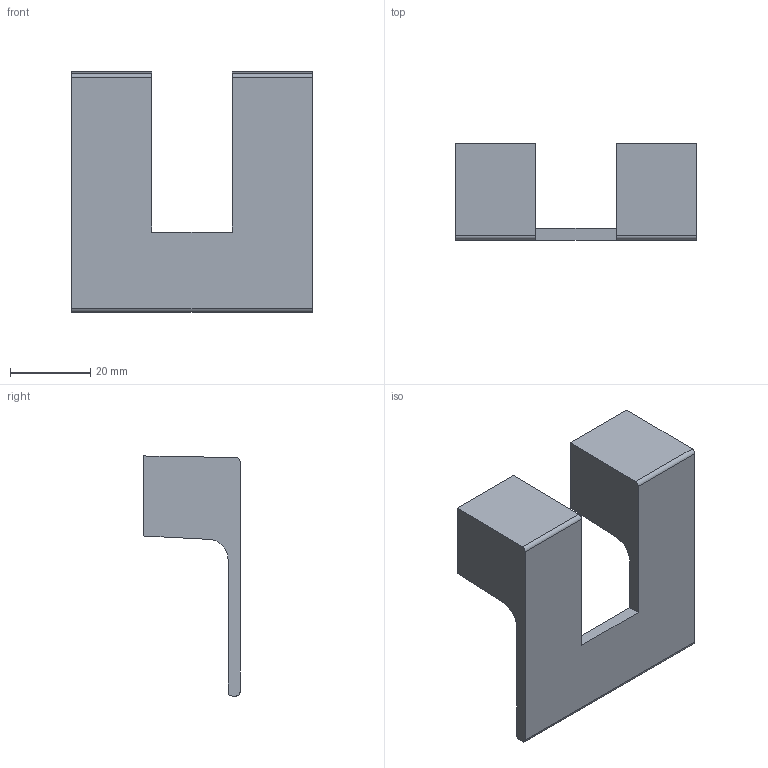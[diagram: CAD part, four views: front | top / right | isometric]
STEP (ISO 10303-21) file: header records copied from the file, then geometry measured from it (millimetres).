
FILE_DESCRIPTION( ( '' ), '1' );
FILE_NAME( 'C:/Documents and Settings/Nikhil/Desktop/Nik/Done/9065628.stp', '2013-10-24T05:44:08', ( '' ), ( '' ), ' ', ' ', ' ' );
FILE_SCHEMA( ( 'automotive_design' ) );
Length unit declared in the file: millimetre
Products named in the file (1): 1
Bounding box: 60 x 24 x 60 mm (x, y, z)
Volume: 25415.8 mm3; surface area: 9961.1 mm2
Topology: 1 solids, 1 shells, 26 faces, 66 edges, 44 vertices
Faces by surface type: plane 16, cylinder 10
Entity records: 1572 total; most frequent: DIRECTION 140, STYLED_ITEM 137, PRESENTATION_STYLE_ASSIGNMENT 137, CARTESIAN_POINT 137, COLOUR_RGB 137, ORIENTED_EDGE 132, EDGE_CURVE 66, CURVE_STYLE 66
